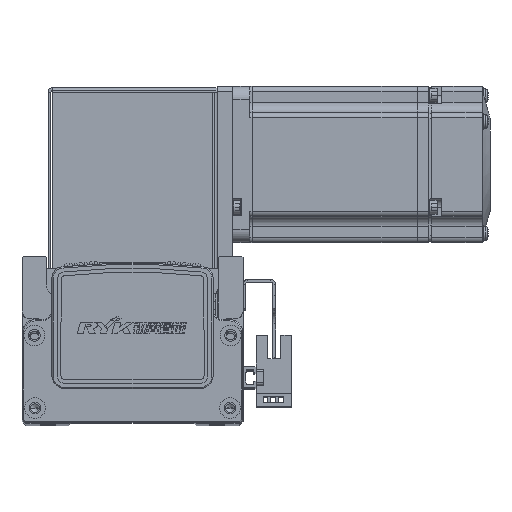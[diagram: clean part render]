
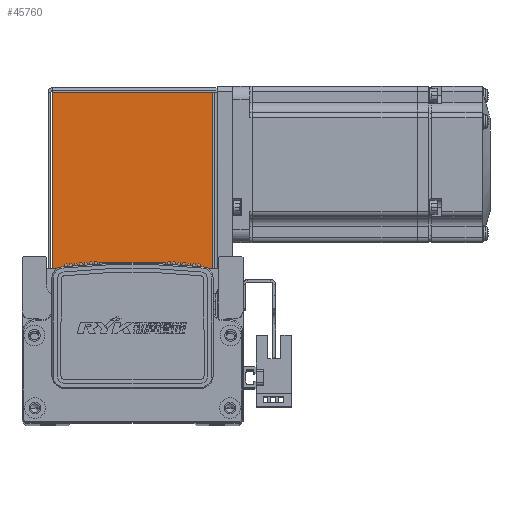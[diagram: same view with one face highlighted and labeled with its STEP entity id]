
A CAD part, top view. The second image highlights one B-rep face of the part: STEP entity #45760.
In plain terms, the highlighted planar face has unit normal (0, 0, 1) as drawn and (0, 0, -1) by its records, which use the part's own axes.
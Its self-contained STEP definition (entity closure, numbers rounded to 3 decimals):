
#5494 = EDGE_CURVE ( 'NONE', #36758, #36667, #16264, .T. ) ;
#5514 = EDGE_CURVE ( 'NONE', #36726, #36758, #16229, .T. ) ;
#5531 = EDGE_CURVE ( 'NONE', #36764, #36726, #16330, .T. ) ;
#5538 = EDGE_CURVE ( 'NONE', #36764, #36667, #16315, .T. ) ;
#8857 = FACE_OUTER_BOUND ( 'NONE', #56506, .T. ) ;
#16220 = VECTOR ( 'NONE', #23522, 1000. ) ;
#16229 = LINE ( 'NONE', #23591, #16258 ) ;
#16258 = VECTOR ( 'NONE', #23663, 1000. ) ;
#16264 = LINE ( 'NONE', #23547, #16220 ) ;
#16315 = LINE ( 'NONE', #23724, #16343 ) ;
#16319 = VECTOR ( 'NONE', #23713, 1000. ) ;
#16330 = LINE ( 'NONE', #23665, #16319 ) ;
#16343 = VECTOR ( 'NONE', #23831, 1000. ) ;
#23522 = DIRECTION ( 'NONE',  ( 0., -1., 0. ) ) ;
#23547 = CARTESIAN_POINT ( 'NONE',  ( 30.763, 68.5, -35. ) ) ;
#23591 = CARTESIAN_POINT ( 'NONE',  ( 0., 68.5, -35. ) ) ;
#23663 = DIRECTION ( 'NONE',  ( 1., 0., 0. ) ) ;
#23665 = CARTESIAN_POINT ( 'NONE',  ( -30.793, 0., -35. ) ) ;
#23713 = DIRECTION ( 'NONE',  ( 0., 1., 0. ) ) ;
#23724 = CARTESIAN_POINT ( 'NONE',  ( 32.5, 0.737, -35. ) ) ;
#23831 = DIRECTION ( 'NONE',  ( 1., 0., 0. ) ) ;
#36667 = VERTEX_POINT ( 'NONE', #64927 ) ;
#36726 = VERTEX_POINT ( 'NONE', #64950 ) ;
#36758 = VERTEX_POINT ( 'NONE', #64957 ) ;
#36764 = VERTEX_POINT ( 'NONE', #64967 ) ;
#45760 = ADVANCED_FACE ( 'NONE', ( #8857 ), #69384, .F. ) ;
#49726 = ORIENTED_EDGE ( 'NONE', *, *, #5538, .F. ) ;
#49743 = ORIENTED_EDGE ( 'NONE', *, *, #5531, .T. ) ;
#49771 = ORIENTED_EDGE ( 'NONE', *, *, #5494, .T. ) ;
#49820 = ORIENTED_EDGE ( 'NONE', *, *, #5514, .T. ) ;
#56506 = EDGE_LOOP ( 'NONE', ( #49771, #49726, #49743, #49820 ) ) ;
#64927 = CARTESIAN_POINT ( 'NONE',  ( 30.763, 0.737, -35. ) ) ;
#64950 = CARTESIAN_POINT ( 'NONE',  ( -30.793, 68.5, -35. ) ) ;
#64957 = CARTESIAN_POINT ( 'NONE',  ( 30.763, 68.5, -35. ) ) ;
#64967 = CARTESIAN_POINT ( 'NONE',  ( -30.793, 0.737, -35. ) ) ;
#68442 = AXIS2_PLACEMENT_3D ( 'NONE', #69419, #69387, #69411 ) ;
#69384 = PLANE ( 'NONE',  #68442 ) ;
#69387 = DIRECTION ( 'NONE',  ( 0., 0., 1. ) ) ;
#69411 = DIRECTION ( 'NONE',  ( 0., -1., 0. ) ) ;
#69419 = CARTESIAN_POINT ( 'NONE',  ( 0., 0., -35. ) ) ;
